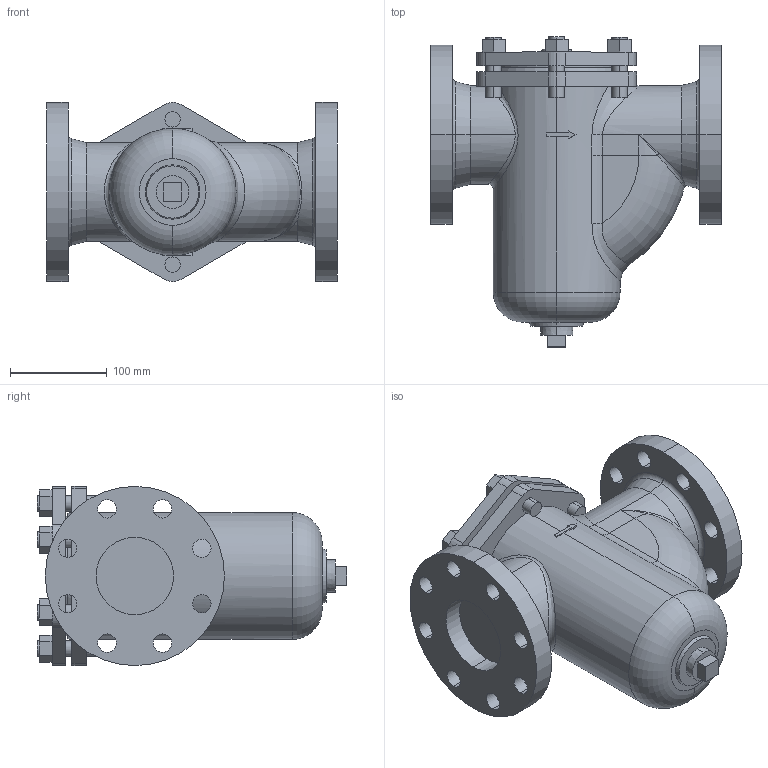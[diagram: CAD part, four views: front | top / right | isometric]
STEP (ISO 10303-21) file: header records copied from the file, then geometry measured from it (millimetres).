
FILE_DESCRIPTION (( 'STEP AP203' ), '1' );
FILE_NAME ('SU-20 80A.STEP', '2025-12-15T01:25:56', ( '' ), ( '' ), 'SwSTEP 2.0', 'SolidWorks 2024', '' );
FILE_SCHEMA (( 'CONFIG_CONTROL_DESIGN' ));
Length unit declared in the file: millimetre
Products named in the file (1): SU-20 80A
Bounding box: 300 x 320.1 x 185.11 mm (x, y, z)
Volume: 6497552.8 mm3; surface area: 361471 mm2
Topology: 1 solids, 1 shells, 238 faces, 622 edges, 407 vertices
Faces by surface type: plane 107, cylinder 105, cone 12, torus 7, bspline 5, sphere 2
Entity records: 9659 total; most frequent: CARTESIAN_POINT 3496, DIRECTION 1294, ORIENTED_EDGE 1242, EDGE_CURVE 621, AXIS2_PLACEMENT_3D 485, VERTEX_POINT 407, LINE 324, VECTOR 324
